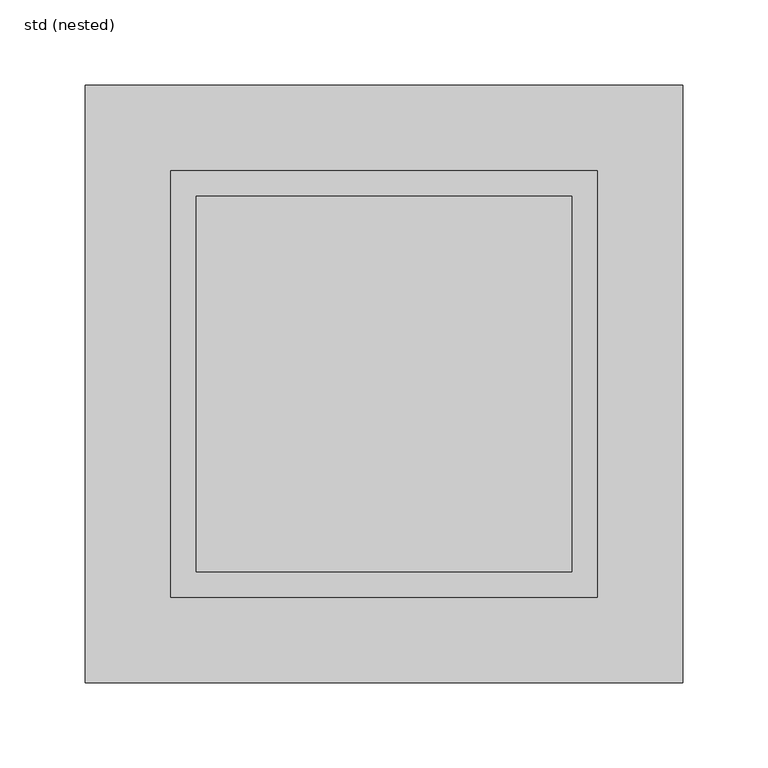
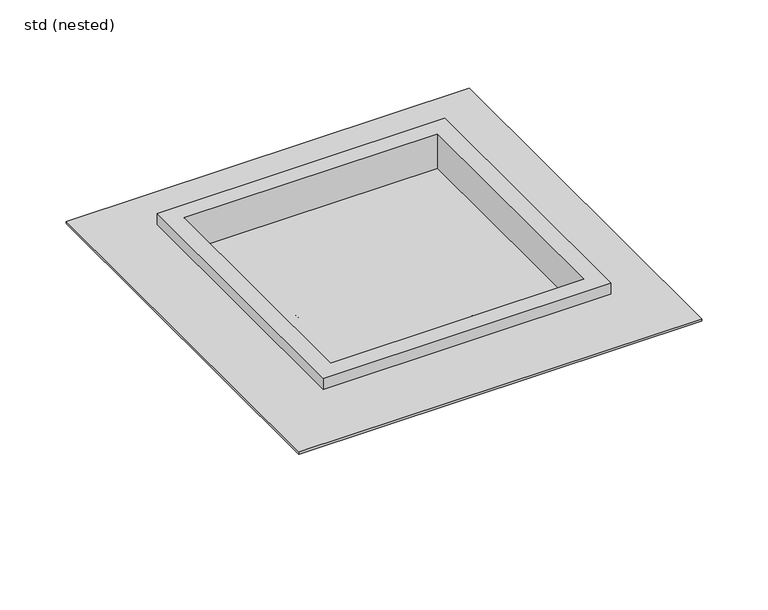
"""IFC4 building model written with IfcOpenShell, lengths in millimetres: sanitary terminal geometry, ZZZ_do not use_PF_ST_UN_telescopic gully top_ACO : std (nested)."""

from ifc_helpers import new_model, si_unit, frame, origin, place, context, project, spatial, polyline, circle_curve, faceted_brep, source, transform, mapped, element, save
from ifc_brep_helpers import plane_surface, cylinder_surface, revolved_surface, advanced_brep


def std_nested_592c855f(model_context):
    return source(origin(), model_context, "Body", "SolidModel", [
        advanced_brep(
        [(-71.0, 0.0, -104.0), (71.0, 0.0, -104.0), (71.0, 0.0, -45.5), (-71.0, 0.0, -45.5), (-78.5, 0.0, -33.0), (78.5, 0.0, -33.0)],
        [
            (0, 1, circle_curve(frame((0.0, 0.0, -104.0), z_axis=(0.0, 0.0, -1.0), x_axis=(1.0, 0.0, 0.0)), 71.0)),
            (1, 0, circle_curve(frame((0.0, 0.0, -104.0), z_axis=(0.0, 0.0, -1.0), x_axis=(1.0, 0.0, 0.0)), 71.0)),
            (1, 2),
            (2, 3, circle_curve(frame((0.0, 0.0, -45.5), z_axis=(0.0, 0.0, -1.0), x_axis=(1.0, 0.0, 0.0)), 71.0)),
            (3, 0),
            (3, 2, circle_curve(frame((0.0, 0.0, -45.5), z_axis=(0.0, 0.0, -1.0), x_axis=(1.0, 0.0, 0.0)), 71.0)),
            (4, 5, circle_curve(frame((0.0, 0.0, -33.0), z_axis=(0.0, 0.0, 1.0), x_axis=(1.0, 0.0, 0.0)), 78.5)),
            (5, 4, circle_curve(frame((0.0, 0.0, -33.0), z_axis=(0.0, 0.0, 1.0), x_axis=(-1.0, 0.0, 0.0)), 78.5)),
            (4, 3),
            (2, 5),
        ],
        [
            plane_surface(frame((71.0, 0.0, -104.0), z_axis=(0.0, 0.0, -1.0), x_axis=(0.0, -1.0, 0.0))),
            cylinder_surface(frame((0.0, 0.0, -104.0), z_axis=(0.0, 0.0, 1.0), x_axis=(1.0, 0.0, 0.0)), 71.0),
            plane_surface(frame((0.0, 0.0, -33.0), z_axis=(0.0, 0.0, 1.0), x_axis=(0.0, -1.0, 0.0))),
            revolved_surface(polyline([(70.99999999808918, 0.0, -45.5), (78.5, 0.0, -33.0)]), (0.0, 0.0, -163.8333333), (0.0, 0.0, 1.0)),
            revolved_surface(polyline([(-70.99999999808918, 0.0, -45.5), (-78.5, 0.0, -33.0)]), (0.0, 0.0, -163.8333333), (0.0, 0.0, 1.0)),
        ],
        [
            (0, [[1, 2]]),
            (1, [[-2, 3, 4, 5]]),
            (1, [[-1, -5, 6, -3]]),
            (2, [[7, 8]]),
            (3, [[-7, 9, -4, 10]]),
            (4, [[-8, -10, -6, -9]]),
        ],
    ),
        faceted_brep([(175.0, 175.0, -22.0), (175.0, -175.0, -22.0), (-175.0, -175.0, -22.0), (-175.0, 175.0, -22.0), (111.25, 111.25, -22.0), (-111.25, 111.25, -22.0), (-111.25, -111.25, -22.0), (111.25, -111.25, -22.0), (175.0, 175.0, -20.0), (-175.0, 175.0, -20.0), (-175.0, -175.0, -20.0), (175.0, -175.0, -20.0), (111.25, 111.25, -20.0), (111.25, -111.25, -20.0), (-111.25, -111.25, -20.0), (-111.25, 111.25, -20.0)], [[[0, 1, 2, 3], [4, 5, 6, 7]], [[8, 9, 10, 11], [12, 13, 14, 15]], [[0, 3, 9, 8]], [[3, 2, 10, 9]], [[2, 1, 11, 10]], [[1, 0, 8, 11]], [[4, 7, 13, 12]], [[7, 6, 14, 13]], [[6, 5, 15, 14]], [[5, 4, 12, 15]]]),
        faceted_brep([(111.25, 111.25, -33.0), (111.25, -111.25, -33.0), (-111.25, -111.25, -33.0), (-111.25, 111.25, -33.0), (110.0, -110.0, -31.75), (110.0, 110.0, -31.75), (-110.0, 110.0, -31.75), (-110.0, -110.0, -31.75), (-111.25, 111.25, -10.0), (111.25, 111.25, -10.0), (-111.25, -111.25, -10.0), (111.25, -111.25, -10.0), (110.0, -110.0, 0.0), (110.0, 110.0, 0.0), (-110.0, -110.0, 0.0), (-110.0, 110.0, 0.0), (125.0, 125.0, -10.0), (125.0, -125.0, -10.0), (-125.0, -125.0, -10.0), (-125.0, 125.0, -10.0), (125.0, 125.0, 0.0), (-125.0, 125.0, 0.0), (-125.0, -125.0, 0.0), (125.0, -125.0, 0.0)], [[[0, 1, 2, 3]], [[4, 5, 6, 7]], [[0, 3, 8, 9]], [[3, 2, 10, 8]], [[2, 1, 11, 10]], [[1, 0, 9, 11]], [[5, 4, 12, 13]], [[12, 4, 7, 14]], [[14, 7, 6, 15]], [[5, 13, 15, 6]], [[16, 17, 18, 19], [9, 8, 10, 11]], [[20, 21, 22, 23], [13, 12, 14, 15]], [[16, 19, 21, 20]], [[19, 18, 22, 21]], [[18, 17, 23, 22]], [[17, 16, 20, 23]]]),
    ])


if __name__ == "__main__":
    model = new_model("IFC4")
    model_context = context("Model", 3, world=origin())
    ifc_project = project(units=[si_unit("LENGTHUNIT", "METRE", prefix="MILLI")], contexts=[model_context])
    site = spatial("IfcSite", under=ifc_project)
    building = spatial("IfcBuilding", under=site)
    placement = place(None, origin())
    std_nested_shape = std_nested_592c855f(model_context)
    element("IfcSanitaryTerminal", 1, ObjectType="ZZZ_do not use_PF_ST_UN_telescopic gully top_ACO : std (nested)", at=placement, inside=building, context=model_context, shape_type="MappedRepresentation", body=[
        mapped(std_nested_shape, transform((0.0, 0.0, 0.0), x_axis=(1.0, 0.0, 0.0), y_axis=(0.0, 1.0, 0.0), z_axis=(0.0, 0.0, 1.0))),
    ])
    save(model, "model.ifc")
